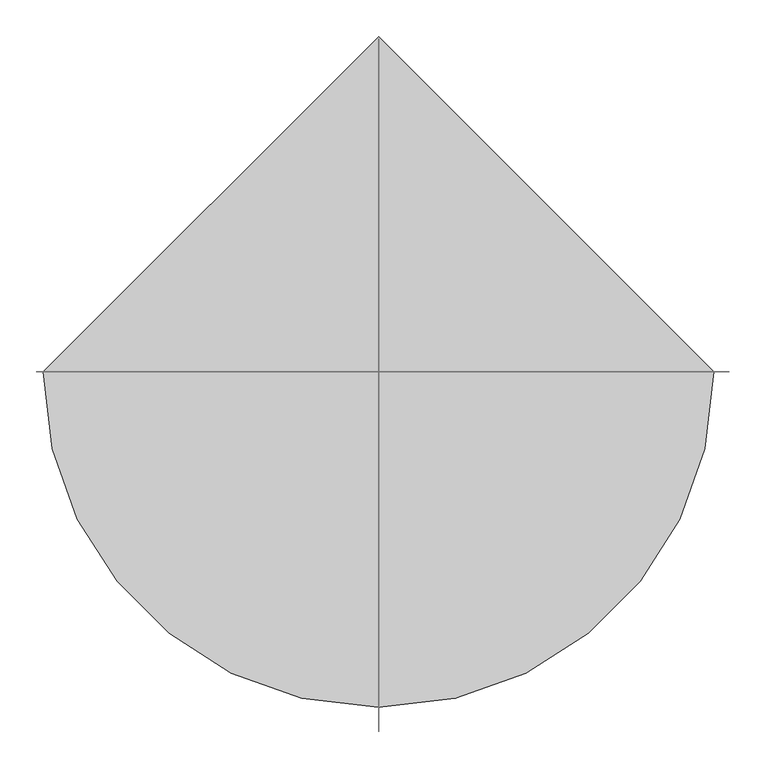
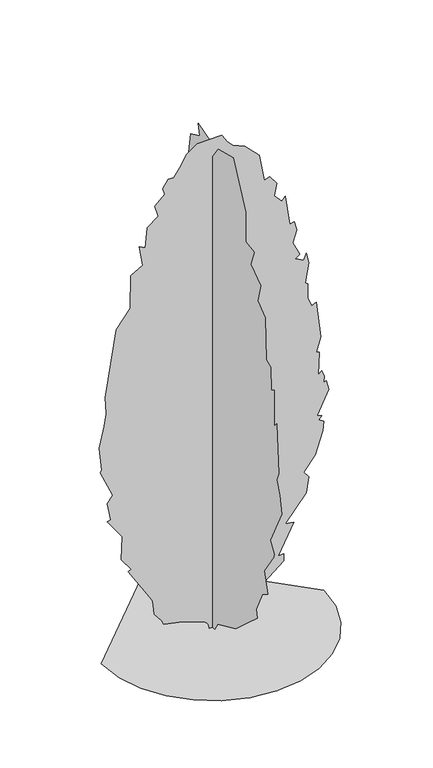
"""IFC4 building model written with IfcOpenShell, lengths in millimetres: geographic element geometry, 木 - 針葉樹 : イブキ - 2.14 メートル."""

from ifc_helpers import new_model, si_unit, origin, place, context, project, spatial, triangles, source, transform, mapped, element, save


def geographic_element_770d22dd(model_context):
    return source(origin(), model_context, "Body", "Tessellation", [
        triangles([(-14.5617849, 6e-07, 1.3e-06), (-18.0617143, -3e-07, 17.993509), (-27.5052093, -6e-07, 30.4826143), (-123.9397732, 1.5e-06, 65.9730988), (-202.281621, 3.9e-06, 82.5968752), (-209.7905013, 3.1e-06, 101.3688126), (-240.0448501, 2.2e-06, 140.0978439), (-247.3348848, -1e-06, 198.983185), (-258.5989501, -1.9e-06, 221.5095716), (-348.7034248, -6.5e-06, 364.1756636), (-337.0454882, -7.4e-06, 371.1816313), (-376.9132945, -9e-06, 427.0714974), (-372.8727708, -1.51e-05, 526.2022199), (-435.0552398, -1.75e-05, 611.9680967), (-420.0369704, -1.83e-05, 615.7207747), (-434.4718451, -2.22e-05, 691.5891088), (-412.526564, -2.49e-05, 720.8435005), (-465.089235, -2.96e-05, 837.2318178), (-457.5813721, -3.03e-05, 844.7397171), (-468.8444201, -3.59e-05, 946.1072216), (-448.4685199, -4.21e-05, 1034.5481169), (-438.8078814, -4.55e-05, 1085.0217075), (-442.5631027, -4.96e-05, 1156.3552895), (-397.5108745, -6.83e-05, 1437.9343231), (-341.1955619, -7.53e-05, 1513.0230537), (-338.151162, -8.37e-05, 1653.1706039), (-288.6329272, -8.76e-05, 1681.9716076), (-303.6511966, -9.21e-05, 1768.3208427), (-278.0195126, -9.24e-05, 1753.6159264), (-269.8620163, -9.78e-05, 1839.6544247), (-224.8079895, -0.0001018, 1873.4434959), (-239.8257501, -0.0001041, 1922.2509819), (-198.5271808, -0.0001081, 1959.7953472), (-206.0360611, -0.0001094, 1986.0767372), (-183.5096745, -0.0001124, 2019.8659538), (-160.983306, -0.0001133, 2019.8659538), (-135.137618, -0.0001165, 2053.4232079), (-109.226209, -0.0001205, 2102.1338974), (-62.7368547, -0.0001244, 2133.6148247), (37.2251579, -0.0001289, 2135.1868217), (60.5262701, -0.0001277, 2098.7073624), (83.0526431, -0.0001274, 2076.1811211), (133.1351784, -0.0001283, 2054.9696251), (191.9300726, -0.0001272, 1993.5845638), (214.4564411, -0.0001213, 1877.19879), (236.9828277, -0.0001227, 1884.7066166), (264.4569501, -0.0001215, 1845.4018936), (255.7542473, -0.0001181, 1794.6020874), (285.7907679, -0.0001174, 1760.8130161), (300.8064938, -0.000119, 1775.8312855), (319.5799845, -0.0001122, 1648.1797749), (338.3508954, -0.0001132, 1651.9350689), (348.5592476, -0.0001115, 1614.7421356), (331.7805479, -0.0001077, 1563.7055706), (360.8770277, -0.0001053, 1501.7600784), (341.2042459, -0.0001037, 1489.9645775), (375.8952607, -0.0001041, 1471.7235397), (387.158345, -0.0001062, 1498.0047844), (398.421393, -0.000104, 1452.9525925), (383.4056671, -9.84e-05, 1370.3558899), (394.2458485, -9.84e-05, 1361.4366669), (392.7401991, -9.47e-05, 1300.4515812), (409.684441, -9.31e-05, 1261.478088), (428.4579317, -9.44e-05, 1268.9859146), (447.2288426, -8.58e-05, 1111.3030249), (428.4579317, -8.14e-05, 1051.2325636), (440.1489696, -8.17e-05, 1047.2607857), (435.9657583, -7.57e-05, 949.862443), (450.9840277, -7.7e-05, 961.125491), (462.247112, -7.59e-05, 934.8441736), (458.4918906, -7.42e-05, 908.5653997), (469.7549386, -7.49e-05, 912.3180777), (481.0180229, -7.29e-05, 871.0210344), (432.2105733, -6.5e-05, 773.4061352), (450.9840277, -6.54e-05, 765.8983086), (439.7209797, -6.4e-05, 750.8800392), (458.4918906, -6.41e-05, 739.6169186), (454.5430764, -6.15e-05, 699.152964), (424.7027103, -5.46e-05, 604.4576903), (375.8952607, -4.89e-05, 544.3871927), (398.421393, -4.83e-05, 518.1058754), (386.1086998, -4.38e-05, 452.5197261), (300.8064938, -3.37e-05, 345.4047526), (334.5982175, -3.5e-05, 341.6495676), (270.7725167, -2.48e-05, 217.7551314), (293.2986308, -2.58e-05, 217.7551314), (293.2986308, -2.4e-05, 187.7198826), (128.1048805, -8.7e-06, 52.5616264), (128.1048805, -9.8e-06, 71.3335638), (15.4734162, -7e-07, 0.0), (0.1966721, 13.830533, 0.0001304), (0.1966737, 34.5845487, 14.3392183), (0.1966762, 77.6552437, 30.0355054), (0.1966783, 179.0240653, 67.5793779), (0.1966827, 231.5856826, 116.3865641), (0.1966819, 209.0593141, 120.1410043), (0.1966905, 289.4104597, 235.9622505), (0.1966919, 265.3761346, 292.842118), (0.1966951, 332.9544951, 390.4569809), (0.1966967, 325.4466322, 435.5092455), (0.1967015, 374.2515384, 495.5797431), (0.1967053, 390.6608202, 567.4279375), (0.1967042, 381.7619448, 642.002092), (0.1967108, 441.8324424, 732.1065485), (0.1967149, 445.585084, 822.2135485), (0.1967171, 423.899707, 895.9520708), (0.1967197, 456.8481683, 1013.6881256), (0.1967202, 426.814173, 1054.9851688), (0.1967238, 389.2698077, 1175.1261641), (0.1967245, 415.551125, 1257.722794), (0.1967285, 385.5145864, 1377.8638618), (0.1967299, 347.9727645, 1449.1974438), (0.1967317, 329.1993101, 1599.374905), (0.1967302, 306.6731778, 1588.1117844), (0.1967361, 306.6731778, 1723.2685055), (0.1967346, 261.6209314, 1734.5316261), (0.196733, 237.7863579, 1814.730946), (0.1967353, 224.0768023, 1880.9539387), (0.1967353, 179.0240653, 1926.0062759), (0.1967403, 156.4976787, 2061.1654678), (0.1967348, 92.6727409, 2091.1993904), (0.1967373, 102.3659537, 2139.5279812), (0.196732, 11.382799, 2110.5232109), (0.196733, 6.3216566, 2046.1471985), (0.1967299, -38.7310661, 2109.9729538), (0.1967264, -147.6085047, 2140.0068764), (0.1967184, -237.7142511, 1956.0401985), (0.1967129, -237.7142511, 1828.391304), (0.1967098, -297.0940932, 1817.8211643), (0.1967079, -271.503177, 1749.5498955), (0.1967066, -343.871089, 1700.1488411), (0.1967041, -324.0658298, 1621.901001), (0.1967, -376.6259211, 1580.601487), (0.1966958, -384.1363275, 1400.3899578), (0.1966939, -414.7893983, 1387.3129944), (0.1966894, -417.9255077, 1287.7593327), (0.1966891, -440.45164, 1302.7749859), (0.1966862, -440.45164, 1145.0922415), (0.1966824, -459.222551, 1167.6183374), (0.1966765, -474.2408203, 957.372813), (0.1966757, -457.938545, 921.6117691), (0.1966723, -481.7512267, 867.2658131), (0.1966725, -493.0142747, 792.1770824), (0.1966689, -414.1703227, 630.739044), (0.1966658, -440.45164, 585.6867794), (0.1966692, -438.2301187, 569.7819363), (0.1966679, -369.1180581, 469.3009692), (0.1966629, -395.3993754, 382.9491543), (0.1966636, -354.0998251, 356.6678006), (0.1966655, -312.8027819, 266.5633259), (0.1966637, -320.3106448, 232.7728739), (0.196664, -245.2228771, 165.1937503), (0.1966643, -166.380433, 93.8601957), (0.1966675, -34.9761195, 33.789689), (0.1966708, -16.204667, 0.0001286), (-459.3417661, 0.0, 0.0001497), (-447.1921443, -105.2957258, 0.0001428), (-412.5928027, -201.993212, 0.0001356), (-358.3130854, -287.3213975, 0.0001281), (-287.1247344, -358.5097667, 0.0001208), (-201.7965488, -412.789484, 0.0001138), (-105.0990536, -447.3888256, 0.0001075), (0.1966917, -459.5384474, 0.0001022), (105.4923981, -447.3888256, 9.83e-05), (202.1898751, -412.789484, 9.61e-05), (287.5180607, -358.5097667, 9.56e-05), (358.706448, -287.3213975, 9.68e-05), (412.9861653, -201.9929576, 9.95e-05), (447.5855069, -105.2957258, 0.0001037), (459.7351287, 4.02e-05, 0.0001095), (0.1966111, 459.5384474, 0.000157)], [[57, 58, 59], [27, 28, 29], [87, 88, 89], [49, 50, 51], [13, 14, 15], [83, 84, 85], [74, 75, 76], [63, 64, 65], [68, 69, 70], [71, 72, 73], [9, 10, 11], [85, 86, 87], [85, 87, 89], [51, 52, 53], [54, 55, 56], [90, 1, 2], [66, 67, 68], [45, 46, 47], [17, 18, 19], [68, 70, 71], [45, 47, 48], [31, 32, 33], [76, 77, 78], [89, 90, 2], [89, 2, 3], [57, 59, 60], [51, 53, 54], [25, 26, 27], [39, 40, 41], [56, 57, 60], [71, 73, 74], [34, 35, 36], [33, 34, 36], [4, 5, 6], [60, 61, 62], [80, 81, 82], [38, 39, 41], [37, 38, 41], [37, 41, 42], [29, 30, 31], [15, 16, 17], [36, 37, 42], [33, 36, 42], [31, 33, 42], [31, 42, 43], [31, 43, 44], [31, 44, 45], [29, 31, 45], [29, 45, 48], [27, 29, 48], [25, 27, 48], [25, 48, 49], [25, 49, 51], [25, 51, 54], [25, 54, 56], [25, 56, 60], [25, 60, 62], [24, 25, 62], [23, 24, 62], [22, 23, 62], [22, 62, 63], [22, 63, 65], [22, 65, 66], [22, 66, 68], [21, 22, 68], [20, 21, 68], [19, 20, 68], [17, 19, 68], [17, 68, 71], [17, 71, 74], [15, 17, 74], [13, 15, 74], [13, 74, 76], [13, 76, 78], [13, 78, 79], [13, 79, 80], [12, 13, 80], [11, 12, 80], [9, 11, 80], [9, 80, 82], [9, 82, 83], [9, 83, 85], [9, 85, 89], [9, 89, 3], [9, 3, 4], [8, 9, 4], [8, 4, 6], [7, 8, 6], [138, 139, 140], [94, 95, 96], [136, 137, 138], [121, 122, 123], [112, 113, 114], [128, 129, 130], [121, 123, 124], [125, 126, 127], [124, 125, 127], [114, 115, 116], [147, 148, 149], [130, 131, 132], [124, 127, 128], [134, 135, 136], [154, 155, 91], [154, 91, 92], [150, 151, 152], [96, 97, 98], [119, 120, 121], [119, 121, 124], [119, 124, 128], [118, 119, 128], [117, 118, 128], [116, 117, 128], [116, 128, 130], [114, 116, 130], [114, 130, 132], [112, 114, 132], [112, 132, 133], [112, 133, 134], [112, 134, 136], [111, 112, 136], [110, 111, 136], [109, 110, 136], [109, 136, 138], [109, 138, 140], [109, 140, 141], [108, 109, 141], [107, 108, 141], [106, 107, 141], [105, 106, 141], [104, 105, 141], [103, 104, 141], [103, 141, 142], [103, 142, 143], [103, 143, 144], [102, 103, 144], [101, 102, 144], [100, 101, 144], [100, 144, 145], [100, 145, 146], [100, 146, 147], [100, 147, 149], [100, 149, 150], [100, 150, 152], [100, 152, 153], [100, 153, 154], [99, 100, 154], [98, 99, 154], [96, 98, 154], [96, 154, 92], [96, 92, 93], [96, 93, 94], [170, 171, 156], [169, 170, 156], [169, 156, 157], [168, 169, 157], [168, 157, 158], [168, 158, 159], [167, 168, 159], [166, 167, 159], [166, 159, 160], [166, 160, 161], [166, 161, 162], [166, 162, 163], [166, 163, 164], [166, 164, 165]], closed=False),
    ])


if __name__ == "__main__":
    model = new_model("IFC4")
    model_context = context("Model", 3, world=origin())
    ifc_project = project(units=[si_unit("LENGTHUNIT", "METRE", prefix="MILLI")], contexts=[model_context])
    site = spatial("IfcSite", under=ifc_project)
    building = spatial("IfcBuilding", under=site)
    placement = place(None, origin())
    geographic_element_shape = geographic_element_770d22dd(model_context)
    element("IfcGeographicElement", 1, ObjectType="木 - 針葉樹 : イブキ - 2.14 メートル", at=placement, inside=building, context=model_context, shape_type="MappedRepresentation", body=[
        mapped(geographic_element_shape, transform((0.0, 0.0, 0.0), x_axis=(1.0, 0.0, 0.0), y_axis=(0.0, 1.0, 0.0), z_axis=(0.0, 0.0, 1.0))),
    ])
    save(model, "model.ifc")
